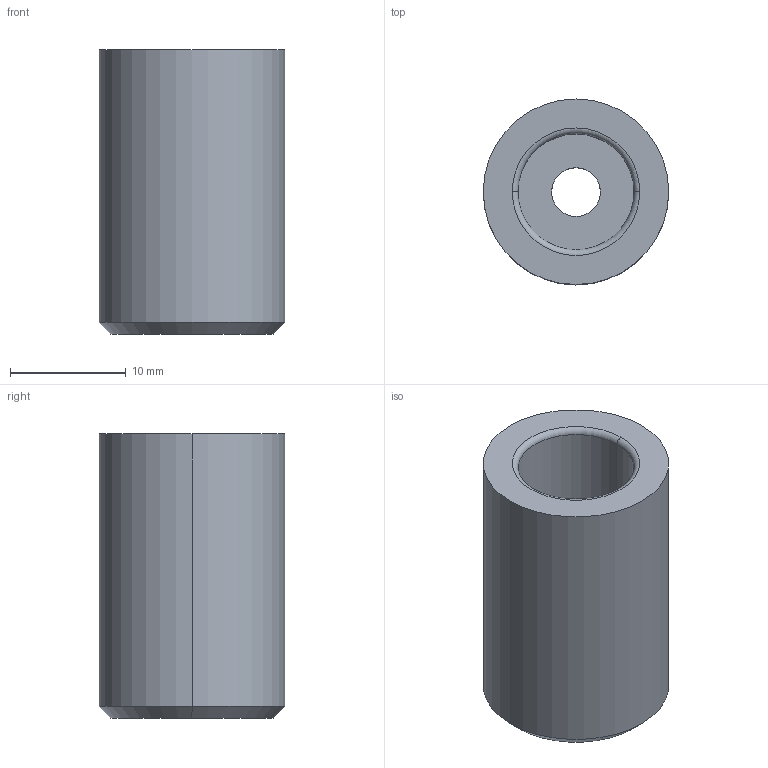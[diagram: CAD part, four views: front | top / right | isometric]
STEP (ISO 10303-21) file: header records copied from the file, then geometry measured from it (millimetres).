
FILE_DESCRIPTION (( 'STEP AP214' ), '1' );
FILE_NAME ('TPNFB16-16.step', '2024-04-30T19:35:51', ( '' ), ( '' ), 'SwSTEP 2.0', 'SolidWorks 2017', '' );
FILE_SCHEMA (( 'AUTOMOTIVE_DESIGN' ));
Length unit declared in the file: millimetre
Products named in the file (1): TPNFB16-16
Bounding box: 16 x 16 x 24.5 mm (x, y, z)
Volume: 3275.6 mm3; surface area: 2280.5 mm2
Topology: 1 solids, 1 shells, 19 faces, 38 edges, 22 vertices
Faces by surface type: cylinder 8, torus 6, plane 3, cone 2
Entity records: 560 total; most frequent: DIRECTION 106, CARTESIAN_POINT 80, ORIENTED_EDGE 76, AXIS2_PLACEMENT_3D 48, EDGE_CURVE 38, CIRCLE 28, VERTEX_POINT 22, EDGE_LOOP 22
